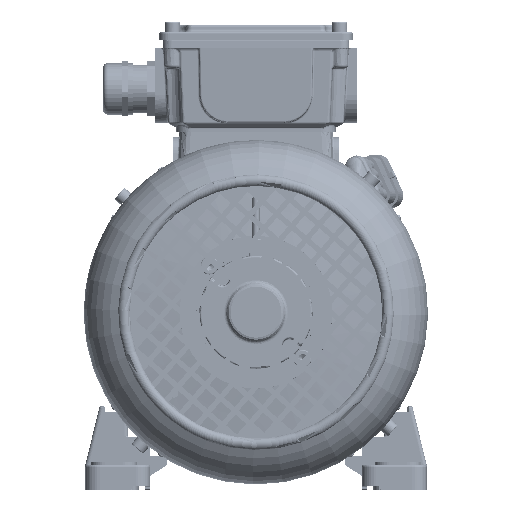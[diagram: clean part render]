
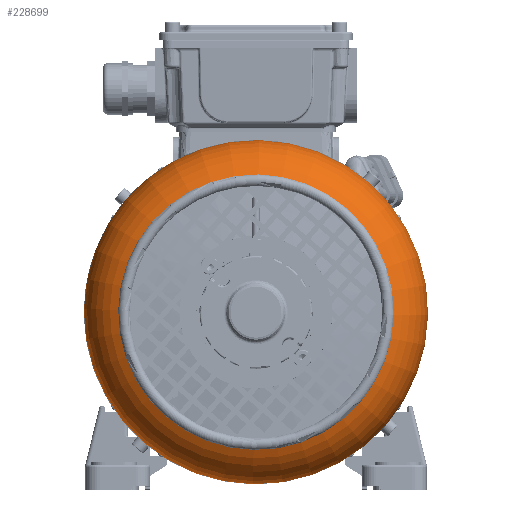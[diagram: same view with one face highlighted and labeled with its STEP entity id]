
A CAD part, left-side view. The second image highlights one B-rep face of the part: STEP entity #228699.
In plain terms, the highlighted toroidal (fillet/blend) face has major radius 64.605 mm and minor radius 32.195 mm.
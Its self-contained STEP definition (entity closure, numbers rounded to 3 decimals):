
#472=TOROIDAL_SURFACE('',#248053,64.605,32.195);
#6841=CIRCLE('',#233029,96.8);
#13399=CIRCLE('',#248052,77.5);
#13400=CIRCLE('',#248054,32.195);
#13401=CIRCLE('',#248055,96.8);
#31656=FACE_OUTER_BOUND('',#44690,.T.);
#44690=EDGE_LOOP('',(#188330,#188331,#188332,#188333,#188334));
#88013=VERTEX_POINT('',#318090);
#88014=VERTEX_POINT('',#318092);
#102920=VERTEX_POINT('',#516076);
#108955=EDGE_CURVE('',#88014,#88013,#6841,.T.);
#132318=EDGE_CURVE('',#102920,#102920,#13399,.T.);
#132319=EDGE_CURVE('',#102920,#88013,#13400,.T.);
#132320=EDGE_CURVE('',#88013,#88014,#13401,.T.);
#188330=ORIENTED_EDGE('',*,*,#132318,.F.);
#188331=ORIENTED_EDGE('',*,*,#132319,.T.);
#188332=ORIENTED_EDGE('',*,*,#132320,.T.);
#188333=ORIENTED_EDGE('',*,*,#108955,.T.);
#188334=ORIENTED_EDGE('',*,*,#132319,.F.);
#228699=ADVANCED_FACE('',(#31656),#472,.T.);
#233029=AXIS2_PLACEMENT_3D('',#318093,#256859,#256860);
#248052=AXIS2_PLACEMENT_3D('',#516078,#299003,#299004);
#248053=AXIS2_PLACEMENT_3D('',#516079,#299005,#299006);
#248054=AXIS2_PLACEMENT_3D('',#516080,#299007,#299008);
#248055=AXIS2_PLACEMENT_3D('',#516081,#299009,#299010);
#256859=DIRECTION('center_axis',(-1.,0.,0.));
#256860=DIRECTION('ref_axis',(0.,0.656,-0.755));
#299003=DIRECTION('center_axis',(-1.,0.,0.));
#299004=DIRECTION('ref_axis',(0.,0.656,-0.755));
#299005=DIRECTION('center_axis',(-1.,0.,0.));
#299006=DIRECTION('ref_axis',(0.,0.656,-0.755));
#299007=DIRECTION('center_axis',(0.,0.755,
0.656));
#299008=DIRECTION('ref_axis',(0.,-0.656,0.755));
#299009=DIRECTION('center_axis',(-1.,0.,0.));
#299010=DIRECTION('ref_axis',(0.,0.656,-0.755));
#318090=CARTESIAN_POINT('',(-60.5,-63.507,73.056));
#318092=CARTESIAN_POINT('',(-60.5,-73.056,-63.507));
#318093=CARTESIAN_POINT('Origin',(-60.5,0.,
0.));
#516076=CARTESIAN_POINT('',(-90.,-50.845,58.49));
#516078=CARTESIAN_POINT('Origin',(-90.,0.,
0.));
#516079=CARTESIAN_POINT('Origin',(-60.5,0.,
0.));
#516080=CARTESIAN_POINT('Origin',(-60.5,-42.384,48.758));
#516081=CARTESIAN_POINT('Origin',(-60.5,0.,
0.));
